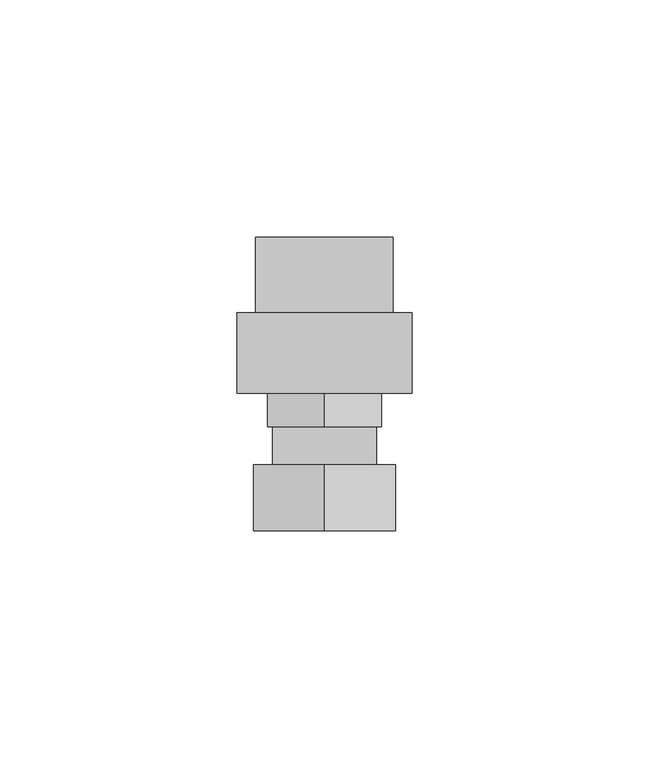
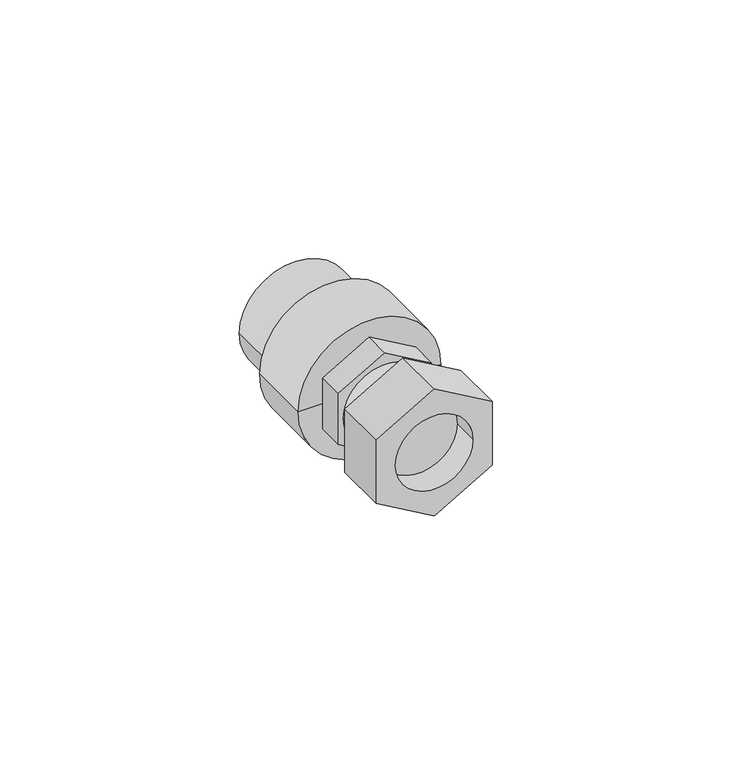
"""IFC4 building model written with IfcOpenShell, lengths in millimetres: pipe fitting geometry, NIRON RED termofusion roscado racor loco : Estándar."""

from ifc_helpers import new_model, si_unit, point, frame, origin, origin_2d, place, context, project, spatial, polyline, circle_curve, trimmed, segment, composite_curve, outline, extrude, source, transform, mapped, element, save
from ifc_brep_helpers import plane_surface, cylinder_surface, revolved_surface, advanced_brep


def pipe_fitting_167903fc(model_context):
    return source(origin(), model_context, "Body", "SolidModel", [
        advanced_brep(
        [(15.0, 9.0, -8.660254), (15.0, 9.0, 8.660254), (0.0, 9.0, 17.3205081), (-15.0, 9.0, 8.660254), (-15.0, 9.0, -8.660254), (0.0, 9.0, -17.3205081), (10.0, 9.0, 0.0), (-10.0, 9.0, 0.0), (15.0, 23.0, -8.660254), (0.0, 23.0, -17.3205081), (-15.0, 23.0, -8.660254), (-15.0, 23.0, 8.660254), (0.0, 23.0, 17.3205081), (15.0, 23.0, 8.660254), (-10.0, 16.0570795, 0.0), (10.0, 16.0570795, 0.0)],
        [
            (0, 1),
            (1, 2),
            (2, 3),
            (3, 4),
            (4, 5),
            (5, 0),
            (6, 7, circle_curve(frame((0.0, 9.0, 0.0), z_axis=(0.0, 1.0, 0.0), x_axis=(1.0, 0.0, 0.0)), 10.0)),
            (7, 6, circle_curve(frame((0.0, 9.0, 0.0), z_axis=(0.0, 1.0, 0.0), x_axis=(1.0, 0.0, 0.0)), 10.0)),
            (8, 9),
            (9, 10),
            (10, 11),
            (11, 12),
            (12, 13),
            (13, 8),
            (0, 8),
            (13, 1),
            (12, 2),
            (11, 3),
            (10, 4),
            (9, 5),
            (14, 15, circle_curve(frame((0.0, 16.0570795, 0.0), z_axis=(0.0, -1.0, 0.0), x_axis=(1.0, 0.0, 0.0)), 10.0)),
            (15, 14, circle_curve(frame((0.0, 16.0570795, 0.0), z_axis=(0.0, -1.0, 0.0), x_axis=(1.0, 0.0, 0.0)), 10.0)),
            (14, 7),
            (6, 15),
        ],
        [
            plane_surface(frame((0.0, 9.0, 0.0), z_axis=(0.0, -1.0, 0.0), x_axis=(0.0, 0.0, 1.0))),
            plane_surface(frame((0.0, 23.0, 0.0), z_axis=(0.0, 1.0, 0.0), x_axis=(0.0, 0.0, 1.0))),
            plane_surface(frame((15.0, 9.0, -8.660254), z_axis=(1.0, 0.0, 0.0), x_axis=(0.0, 1.0, 0.0))),
            plane_surface(frame((15.0, 9.0, 8.660254), z_axis=(0.4999999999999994, 0.0, 0.866025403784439), x_axis=(0.0, 1.0, 0.0))),
            plane_surface(frame((0.0, 9.0, 17.3205081), z_axis=(-0.4999999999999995, 0.0, 0.8660254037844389), x_axis=(0.0, 1.0, 0.0))),
            plane_surface(frame((-15.0, 9.0, 8.660254), z_axis=(-1.0, 0.0, 0.0), x_axis=(0.0, 1.0, 0.0))),
            plane_surface(frame((-15.0, 9.0, -8.660254), z_axis=(-0.4999999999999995, 0.0, -0.866025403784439), x_axis=(0.0, 1.0, 0.0))),
            plane_surface(frame((0.0, 9.0, -17.3205081), z_axis=(0.4999999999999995, 0.0, -0.8660254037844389), x_axis=(0.0, 1.0, 0.0))),
            plane_surface(frame((10.0, 16.0570795, 0.0), z_axis=(0.0, -1.0, 0.0), x_axis=(0.0, 0.0, -1.0))),
            revolved_surface(polyline([(10.0, 9.0, 0.0), (10.0, 16.0570795, 0.0)]), (0.0, 16.0570795, 0.0), (0.0, -1.0, 0.0)),
        ],
        [
            (0, [[1, 2, 3, 4, 5, 6], [7, 8]]),
            (1, [[9, 10, 11, 12, 13, 14]]),
            (2, [[-1, 15, -14, 16]]),
            (3, [[-2, -16, -13, 17]]),
            (4, [[-3, -17, -12, 18]]),
            (5, [[-4, -18, -11, 19]]),
            (6, [[-5, -19, -10, 20]]),
            (7, [[-6, -20, -9, -15]]),
            (8, [[21, 22]]),
            (9, [[-21, 23, -7, 24]]),
            (9, [[-22, -24, -8, -23]]),
        ],
    ),
        extrude(outline(polyline([(-6.9282032, 12.0), (6.9282032, 12.0), (13.8564065, 0.0), (6.9282032, -12.0), (-6.9282032, -12.0), (-13.8564065, 0.0), (-6.9282032, 12.0)])), frame((0.0, 31.0, 0.0), z_axis=(0.0, 1.0, 0.0), x_axis=(0.0, 0.0, 1.0)), (0.0, 0.0, 1.0), 7.0),
        extrude(outline(composite_curve([segment(trimmed(circle_curve(origin_2d(), 11.0), [point((0.0, -11.0))], [point((0.0, 11.0))], False, "CARTESIAN"), True, "CONTINUOUS"), segment(trimmed(circle_curve(origin_2d(), 11.0), [point((0.0, 11.0))], [point((0.0, -11.0))], False, "CARTESIAN"), True, "CONTINUOUS")], self_intersect=False)), frame((0.0, 23.0, 0.0), z_axis=(0.0, 1.0, 0.0), x_axis=(0.0, 0.0, 1.0)), (0.0, 0.0, 1.0), 8.0),
        advanced_brep(
        [(14.5, 71.0, 0.0), (-14.5, 71.0, 0.0), (0.0, 71.0, 0.0), (18.5, 38.0, 0.0), (-18.5, 38.0, 0.0), (-18.5, 55.0, 0.0), (18.5, 55.0, 0.0), (0.0, 38.0, 0.0), (14.5, 55.0, 0.0), (-14.5, 55.0, 0.0)],
        [
            (0, 1, circle_curve(frame((0.0, 71.0, 0.0), z_axis=(0.0, 1.0, 0.0), x_axis=(-1.0, 0.0, 0.0)), 14.5)),
            (1, 2),
            (2, 0),
            (1, 0, circle_curve(frame((0.0, 71.0, 0.0), z_axis=(0.0, 1.0, 0.0), x_axis=(-1.0, 0.0, 0.0)), 14.5)),
            (3, 4, circle_curve(frame((0.0, 38.0, 0.0), z_axis=(0.0, 1.0, 0.0), x_axis=(-1.0, 0.0, 0.0)), 18.5)),
            (4, 5),
            (5, 6, circle_curve(frame((0.0, 55.0, 0.0), z_axis=(0.0, -1.0, 0.0), x_axis=(-1.0, 0.0, 0.0)), 18.5)),
            (6, 3),
            (4, 3, circle_curve(frame((0.0, 38.0, 0.0), z_axis=(0.0, 1.0, 0.0), x_axis=(-1.0, 0.0, 0.0)), 18.5)),
            (6, 5, circle_curve(frame((0.0, 55.0, 0.0), z_axis=(0.0, -1.0, 0.0), x_axis=(-1.0, 0.0, 0.0)), 18.5)),
            (7, 4),
            (3, 7),
            (8, 9, circle_curve(frame((0.0, 55.0, 0.0), z_axis=(0.0, 1.0, 0.0), x_axis=(-1.0, 0.0, 0.0)), 14.5)),
            (9, 1),
            (0, 8),
            (9, 8, circle_curve(frame((0.0, 55.0, 0.0), z_axis=(0.0, 1.0, 0.0), x_axis=(-1.0, 0.0, 0.0)), 14.5)),
            (5, 9),
            (8, 6),
        ],
        [
            plane_surface(frame((0.0, 71.0, 0.0), z_axis=(0.0, 1.0, 0.0), x_axis=(-1.0, 0.0, 0.0))),
            cylinder_surface(frame((0.0, 81.0, 0.0), z_axis=(0.0, -1.0, 0.0), x_axis=(-1.0, 0.0, 0.0)), 18.5),
            plane_surface(frame((0.0, 38.0, 0.0), z_axis=(0.0, -1.0, 0.0), x_axis=(-1.0, 0.0, 0.0))),
            cylinder_surface(frame((0.0, 81.0, 0.0), z_axis=(0.0, -1.0, 0.0), x_axis=(-1.0, 0.0, 0.0)), 14.5),
            plane_surface(frame((0.0, 55.0, 0.0), z_axis=(0.0, 1.0, 0.0), x_axis=(-1.0, 0.0, 0.0))),
        ],
        [
            (0, [[1, 2, 3]]),
            (0, [[4, -3, -2]]),
            (1, [[5, 6, 7, 8]]),
            (1, [[9, -8, 10, -6]]),
            (2, [[11, -5, 12]]),
            (2, [[-12, -9, -11]]),
            (3, [[13, 14, -1, 15]]),
            (3, [[16, -15, -4, -14]]),
            (4, [[-7, 17, -13, 18]]),
            (4, [[-10, -18, -16, -17]]),
        ],
    ),
    ])


if __name__ == "__main__":
    model = new_model("IFC4")
    model_context = context("Model", 3, world=origin())
    ifc_project = project(units=[si_unit("LENGTHUNIT", "METRE", prefix="MILLI")], contexts=[model_context])
    site = spatial("IfcSite", under=ifc_project)
    building = spatial("IfcBuilding", under=site)
    placement = place(None, origin())
    pipe_fitting_shape = pipe_fitting_167903fc(model_context)
    element("IfcPipeFitting", 1, ObjectType="NIRON RED termofusion roscado racor loco : Estándar", at=placement, inside=building, context=model_context, shape_type="MappedRepresentation", body=[
        mapped(pipe_fitting_shape, transform((0.0, 0.0, 0.0), x_axis=(1.0, 0.0, 0.0), y_axis=(0.0, 1.0, 0.0), z_axis=(0.0, 0.0, 1.0))),
    ])
    save(model, "model.ifc")
